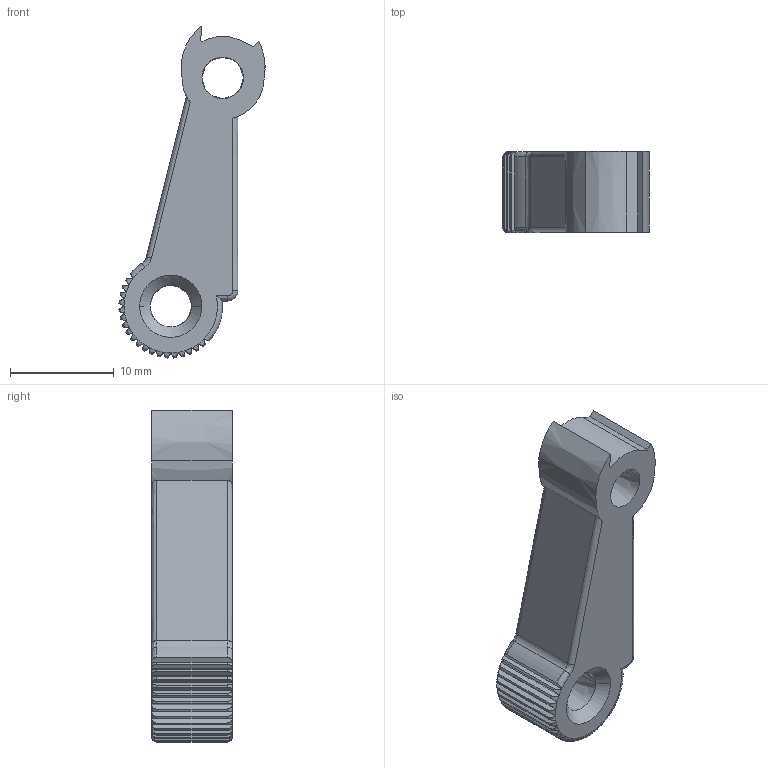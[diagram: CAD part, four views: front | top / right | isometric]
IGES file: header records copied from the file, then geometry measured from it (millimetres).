
Start section:  PTC IGES file: C:\Documents and Settings\audibk\personal\guns\walther\W alther_PPK\iges\hahn01.igs
Global section: file name: C:\Documents and Settings\audibk\personal\guns\walther\Walther_PPK\iges\hahn01.igs; native system: Pro/ENGINEER by Parametric Technology Corporation; preprocessor: 2002180; author: audibk; organization: Unknown; date: 030409.105321; units: millimetre
Bounding box: 14.08 x 7.8 x 31.99 mm (x, y, z)
Volume: 1639.8 mm3; surface area: 1299.7 mm2
Topology: 1 solids, 1 shells, 137 faces, 311 edges, 176 vertices
Faces by surface type: bspline 137
